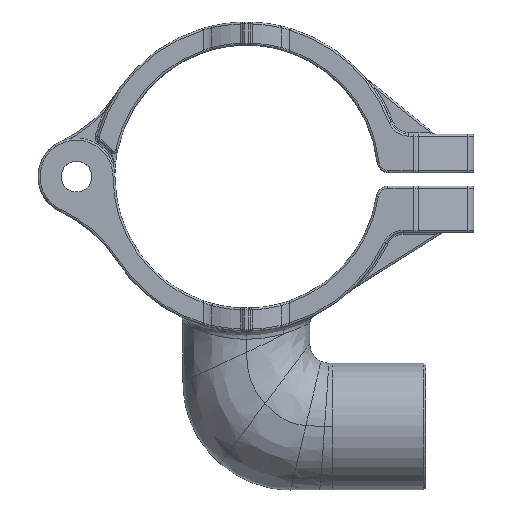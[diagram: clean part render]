
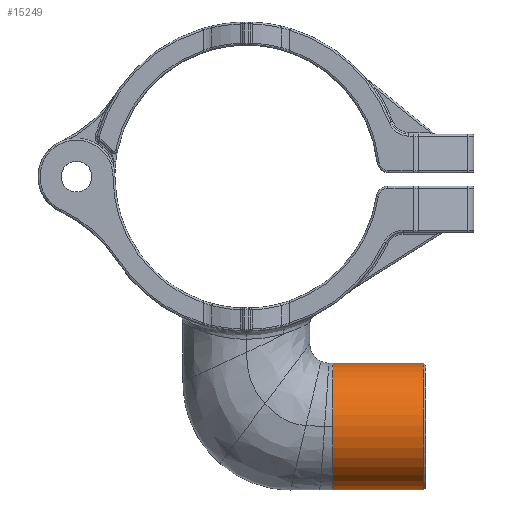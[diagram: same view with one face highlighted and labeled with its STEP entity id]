
A CAD part, top view. The second image highlights one B-rep face of the part: STEP entity #15249.
In plain terms, the highlighted cylindrical face has radius 16.696 mm (diameter 33.393 mm), a partial arc.
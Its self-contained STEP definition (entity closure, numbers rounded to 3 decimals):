
#5183=CARTESIAN_POINT('',(22.768,-65.774,16.696));
#5188=CARTESIAN_POINT('',(22.768,-65.774,0.));
#5189=DIRECTION('',(1.,0.,0.));
#5190=DIRECTION('',(0.,0.,1.));
#5191=AXIS2_PLACEMENT_3D('',#5188,#5189,#5190);
#5203=CARTESIAN_POINT('',(22.768,-65.774,0.));
#5204=DIRECTION('',(1.,0.,0.));
#5205=DIRECTION('',(0.,1.,0.));
#5206=AXIS2_PLACEMENT_3D('',#5203,#5204,#5205);
#5270=DIRECTION('',(1.,0.,0.));
#5271=VECTOR('',#5270,23.881);
#5272=CARTESIAN_POINT('',(22.768,-82.47,0.));
#5273=LINE('',#5272,#5271);
#5277=DIRECTION('',(1.,0.,0.));
#5278=VECTOR('',#5277,23.881);
#5279=CARTESIAN_POINT('',(22.768,-49.077,0.));
#5280=LINE('',#5279,#5278);
#5291=CARTESIAN_POINT('',(46.649,-65.774,0.));
#5292=DIRECTION('',(-1.,0.,0.));
#5293=DIRECTION('',(0.,-1.,0.));
#5294=AXIS2_PLACEMENT_3D('',#5291,#5292,#5293);
#5299=CARTESIAN_POINT('',(46.649,-65.774,0.));
#5300=DIRECTION('',(-1.,0.,0.));
#5301=DIRECTION('',(0.,0.,1.));
#5302=AXIS2_PLACEMENT_3D('',#5299,#5300,#5301);
#8588=VERTEX_POINT('',#5183);
#8589=CARTESIAN_POINT('',(22.768,-82.47,0.));
#8590=VERTEX_POINT('',#8589);
#8592=CARTESIAN_POINT('',(22.768,-49.077,0.));
#8594=VERTEX_POINT('',#8592);
#8597=CARTESIAN_POINT('',(46.649,-82.47,0.));
#8598=VERTEX_POINT('',#8597);
#8601=CARTESIAN_POINT('',(46.649,-49.077,0.));
#8602=VERTEX_POINT('',#8601);
#8603=CARTESIAN_POINT('',(46.649,-65.774,16.696));
#8604=VERTEX_POINT('',#8603);
#15234=CARTESIAN_POINT('',(21.549,-65.774,0.));
#15235=DIRECTION('',(1.,0.,0.));
#15236=DIRECTION('',(0.,1.,0.));
#15237=AXIS2_PLACEMENT_3D('',#15234,#15235,#15236);
#15238=CYLINDRICAL_SURFACE('',#15237,16.696);
#15239=ORIENTED_EDGE('',*,*,#15227,.T.);
#15241=ORIENTED_EDGE('',*,*,#15240,.F.);
#15243=ORIENTED_EDGE('',*,*,#15242,.F.);
#15244=ORIENTED_EDGE('',*,*,#15221,.F.);
#15245=ORIENTED_EDGE('',*,*,#15056,.F.);
#15246=ORIENTED_EDGE('',*,*,#15107,.F.);
#15247=EDGE_LOOP('',(#15239,#15241,#15243,#15244,#15245,#15246));
#15248=FACE_OUTER_BOUND('',#15247,.F.);
#5192=CIRCLE('',#5191,16.696);
#5207=CIRCLE('',#5206,16.696);
#5295=CIRCLE('',#5294,16.696);
#5303=CIRCLE('',#5302,16.696);
#15056=EDGE_CURVE('',#8588,#8590,#5192,.T.);
#15107=EDGE_CURVE('',#8594,#8588,#5207,.T.);
#15221=EDGE_CURVE('',#8590,#8598,#5273,.T.);
#15227=EDGE_CURVE('',#8594,#8602,#5280,.T.);
#15240=EDGE_CURVE('',#8604,#8602,#5303,.T.);
#15242=EDGE_CURVE('',#8598,#8604,#5295,.T.);
#15249=ADVANCED_FACE('',(#15248),#15238,.T.);
